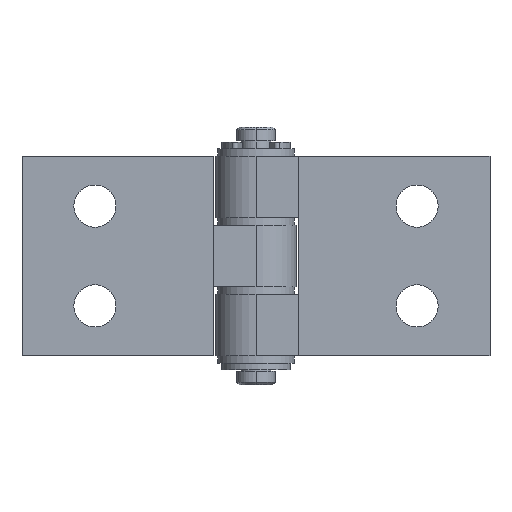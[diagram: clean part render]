
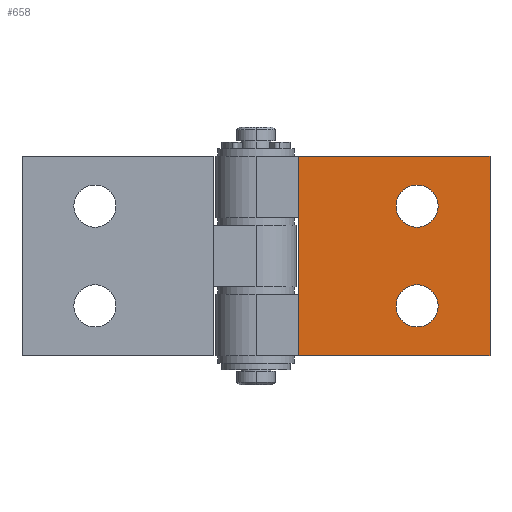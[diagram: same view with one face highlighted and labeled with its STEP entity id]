
A CAD part, front view. The second image highlights one B-rep face of the part: STEP entity #658.
In plain terms, the highlighted planar face has unit normal (0, -1, 0).
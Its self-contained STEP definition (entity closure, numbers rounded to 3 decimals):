
#39 = DIRECTION ( 'NONE',  ( 0., 1., 0. ) ) ;
#88 = VERTEX_POINT ( 'NONE', #3102 ) ;
#91 = LINE ( 'NONE', #3365, #2531 ) ;
#108 = DIRECTION ( 'NONE',  ( 0., 1., 0. ) ) ;
#153 = AXIS2_PLACEMENT_3D ( 'NONE', #3622, #108, #2172 ) ;
#161 = ORIENTED_EDGE ( 'NONE', *, *, #2256, .F. ) ;
#183 = VERTEX_POINT ( 'NONE', #987 ) ;
#217 = DIRECTION ( 'NONE',  ( 0., 0., 1. ) ) ;
#319 = AXIS2_PLACEMENT_3D ( 'NONE', #1799, #39, #2103 ) ;
#375 = CARTESIAN_POINT ( 'NONE',  ( 21., -5.75, 9.25 ) ) ;
#392 = AXIS2_PLACEMENT_3D ( 'NONE', #3735, #1980, #217 ) ;
#405 = FACE_OUTER_BOUND ( 'NONE', #2829, .T. ) ;
#643 = VERTEX_POINT ( 'NONE', #1075 ) ;
#658 = ADVANCED_FACE ( 'NONE', ( #1290, #3450, #405 ), #1342, .F. ) ;
#662 = EDGE_CURVE ( 'NONE', #768, #643, #3370, .T. ) ;
#730 = LINE ( 'NONE', #1587, #2298 ) ;
#768 = VERTEX_POINT ( 'NONE', #1379 ) ;
#812 = EDGE_CURVE ( 'NONE', #2711, #88, #730, .T. ) ;
#910 = ORIENTED_EDGE ( 'NONE', *, *, #2907, .F. ) ;
#987 = CARTESIAN_POINT ( 'NONE',  ( 21., -5.75, 3.75 ) ) ;
#1033 = DIRECTION ( 'NONE',  ( 0., 0., 1. ) ) ;
#1055 = CIRCLE ( 'NONE', #153, 2.75 ) ;
#1075 = CARTESIAN_POINT ( 'NONE',  ( 21., -5.75, -9.25 ) ) ;
#1086 = EDGE_LOOP ( 'NONE', ( #3446, #1174 ) ) ;
#1174 = ORIENTED_EDGE ( 'NONE', *, *, #1420, .T. ) ;
#1266 = DIRECTION ( 'NONE',  ( 1., 0., 0. ) ) ;
#1290 = FACE_BOUND ( 'NONE', #1086, .T. ) ;
#1319 = DIRECTION ( 'NONE',  ( 0., 1., 0. ) ) ;
#1342 = PLANE ( 'NONE',  #2160 ) ;
#1379 = CARTESIAN_POINT ( 'NONE',  ( 21., -5.75, -3.75 ) ) ;
#1420 = EDGE_CURVE ( 'NONE', #643, #768, #1055, .T. ) ;
#1462 = VERTEX_POINT ( 'NONE', #2959 ) ;
#1538 = EDGE_CURVE ( 'NONE', #3034, #2711, #91, .T. ) ;
#1587 = CARTESIAN_POINT ( 'NONE',  ( 5.5, -5.75, -13. ) ) ;
#1599 = CIRCLE ( 'NONE', #392, 2.75 ) ;
#1739 = ORIENTED_EDGE ( 'NONE', *, *, #2838, .T. ) ;
#1799 = CARTESIAN_POINT ( 'NONE',  ( 21., -5.75, 6.5 ) ) ;
#1939 = DIRECTION ( 'NONE',  ( 1., 0., 0. ) ) ;
#1953 = AXIS2_PLACEMENT_3D ( 'NONE', #3411, #3441, #3578 ) ;
#1980 = DIRECTION ( 'NONE',  ( 0., 1., 0. ) ) ;
#2068 = EDGE_CURVE ( 'NONE', #2529, #183, #3130, .T. ) ;
#2103 = DIRECTION ( 'NONE',  ( 0., 0., 1. ) ) ;
#2160 = AXIS2_PLACEMENT_3D ( 'NONE', #3029, #1319, #1033 ) ;
#2161 = ORIENTED_EDGE ( 'NONE', *, *, #2068, .T. ) ;
#2172 = DIRECTION ( 'NONE',  ( 0., 0., 1. ) ) ;
#2256 = EDGE_CURVE ( 'NONE', #3034, #1462, #2661, .T. ) ;
#2298 = VECTOR ( 'NONE', #1939, 1000. ) ;
#2305 = VECTOR ( 'NONE', #2592, 1000. ) ;
#2448 = CARTESIAN_POINT ( 'NONE',  ( 5.5, -5.75, 13. ) ) ;
#2473 = DIRECTION ( 'NONE',  ( 0., 0., -1. ) ) ;
#2529 = VERTEX_POINT ( 'NONE', #375 ) ;
#2531 = VECTOR ( 'NONE', #2473, 1000. ) ;
#2569 = VECTOR ( 'NONE', #1266, 1000. ) ;
#2592 = DIRECTION ( 'NONE',  ( 0., 0., -1. ) ) ;
#2661 = LINE ( 'NONE', #2448, #2569 ) ;
#2711 = VERTEX_POINT ( 'NONE', #3115 ) ;
#2829 = EDGE_LOOP ( 'NONE', ( #3615, #910, #161, #3408 ) ) ;
#2838 = EDGE_CURVE ( 'NONE', #183, #2529, #1599, .T. ) ;
#2887 = CARTESIAN_POINT ( 'NONE',  ( 30.5, -5.75, 13. ) ) ;
#2899 = LINE ( 'NONE', #2887, #2305 ) ;
#2907 = EDGE_CURVE ( 'NONE', #1462, #88, #2899, .T. ) ;
#2959 = CARTESIAN_POINT ( 'NONE',  ( 30.5, -5.75, 13. ) ) ;
#3029 = CARTESIAN_POINT ( 'NONE',  ( 5.5, -5.75, 13. ) ) ;
#3034 = VERTEX_POINT ( 'NONE', #3519 ) ;
#3102 = CARTESIAN_POINT ( 'NONE',  ( 30.5, -5.75, -13. ) ) ;
#3115 = CARTESIAN_POINT ( 'NONE',  ( 5.5, -5.75, -13. ) ) ;
#3130 = CIRCLE ( 'NONE', #319, 2.75 ) ;
#3365 = CARTESIAN_POINT ( 'NONE',  ( 5.5, -5.75, 13. ) ) ;
#3370 = CIRCLE ( 'NONE', #1953, 2.75 ) ;
#3408 = ORIENTED_EDGE ( 'NONE', *, *, #1538, .T. ) ;
#3411 = CARTESIAN_POINT ( 'NONE',  ( 21., -5.75, -6.5 ) ) ;
#3441 = DIRECTION ( 'NONE',  ( 0., 1., 0. ) ) ;
#3446 = ORIENTED_EDGE ( 'NONE', *, *, #662, .T. ) ;
#3450 = FACE_BOUND ( 'NONE', #3793, .T. ) ;
#3519 = CARTESIAN_POINT ( 'NONE',  ( 5.5, -5.75, 13. ) ) ;
#3578 = DIRECTION ( 'NONE',  ( 0., 0., 1. ) ) ;
#3615 = ORIENTED_EDGE ( 'NONE', *, *, #812, .T. ) ;
#3622 = CARTESIAN_POINT ( 'NONE',  ( 21., -5.75, -6.5 ) ) ;
#3735 = CARTESIAN_POINT ( 'NONE',  ( 21., -5.75, 6.5 ) ) ;
#3793 = EDGE_LOOP ( 'NONE', ( #2161, #1739 ) ) ;
